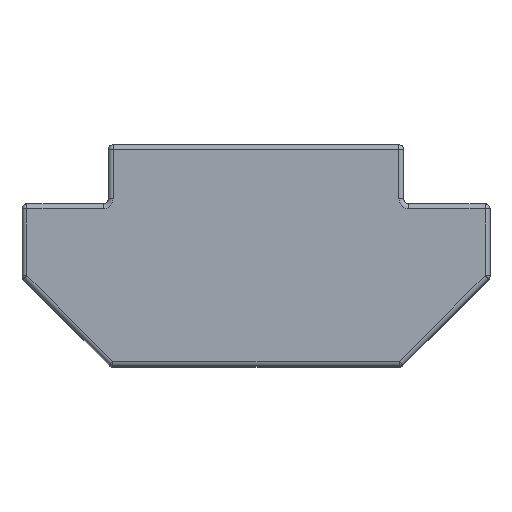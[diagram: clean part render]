
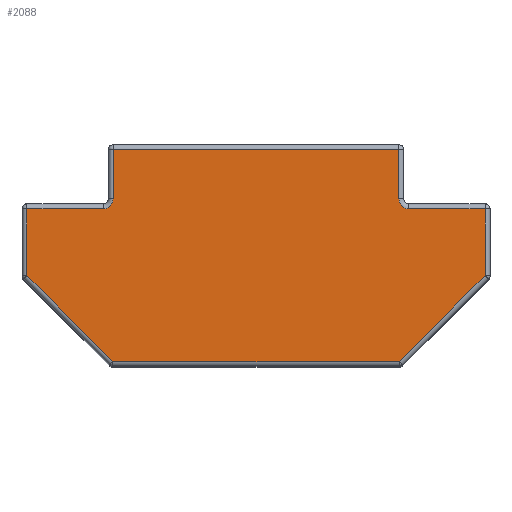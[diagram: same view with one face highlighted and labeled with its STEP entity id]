
A CAD part, top view. The second image highlights one B-rep face of the part: STEP entity #2088.
In plain terms, the highlighted planar face has unit normal (0, 0, 1).
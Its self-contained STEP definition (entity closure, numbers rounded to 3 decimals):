
#29 = CARTESIAN_POINT ( 'NONE',  ( 2.9, 0., 4.75 ) ) ;
#47 = LINE ( 'NONE', #3357, #1229 ) ;
#69 = EDGE_CURVE ( 'NONE', #1045, #1991, #2893, .T. ) ;
#104 = PLANE ( 'NONE',  #776 ) ;
#148 = LINE ( 'NONE', #451, #847 ) ;
#162 = LINE ( 'NONE', #3463, #3146 ) ;
#170 = CARTESIAN_POINT ( 'NONE',  ( -2.9, 0., 4.75 ) ) ;
#232 = LINE ( 'NONE', #29, #3312 ) ;
#248 = EDGE_CURVE ( 'NONE', #1744, #2445, #3550, .T. ) ;
#287 = EDGE_LOOP ( 'NONE', ( #2370, #2886, #1256, #2881, #1720, #688, #2707, #3220, #1725, #3346, #3256, #291 ) ) ;
#291 = ORIENTED_EDGE ( 'NONE', *, *, #923, .T. ) ;
#296 = DIRECTION ( 'NONE',  ( 0., 0., 1. ) ) ;
#326 = CARTESIAN_POINT ( 'NONE',  ( 2.9, 1.15, 4.75 ) ) ;
#408 = VERTEX_POINT ( 'NONE', #2135 ) ;
#444 = VERTEX_POINT ( 'NONE', #548 ) ;
#451 = CARTESIAN_POINT ( 'NONE',  ( 0., 0.95, 4.75 ) ) ;
#528 = CARTESIAN_POINT ( 'NONE',  ( 4.65, 0., 4.75 ) ) ;
#548 = CARTESIAN_POINT ( 'NONE',  ( -2.909, -2.15, 4.75 ) ) ;
#590 = EDGE_CURVE ( 'NONE', #2445, #1393, #2544, .T. ) ;
#594 = DIRECTION ( 'NONE',  ( -1., 0., 0. ) ) ;
#662 = EDGE_CURVE ( 'NONE', #408, #444, #1701, .T. ) ;
#688 = ORIENTED_EDGE ( 'NONE', *, *, #662, .T. ) ;
#707 = CARTESIAN_POINT ( 'NONE',  ( -4.65, 0.95, 4.75 ) ) ;
#776 = AXIS2_PLACEMENT_3D ( 'NONE', #3121, #3408, #2512 ) ;
#803 = EDGE_CURVE ( 'NONE', #1767, #1744, #3417, .T. ) ;
#811 = DIRECTION ( 'NONE',  ( 0., 1., 0. ) ) ;
#847 = VECTOR ( 'NONE', #1798, 1000. ) ;
#917 = DIRECTION ( 'NONE',  ( 0.707, -0.707, 0. ) ) ;
#923 = EDGE_CURVE ( 'NONE', #1690, #3272, #232, .T. ) ;
#1045 = VERTEX_POINT ( 'NONE', #1865 ) ;
#1092 = CARTESIAN_POINT ( 'NONE',  ( 3.1, 1.15, 4.75 ) ) ;
#1148 = CARTESIAN_POINT ( 'NONE',  ( -3.1, 1.15, 4.75 ) ) ;
#1162 = CIRCLE ( 'NONE', #2780, 0.2 ) ;
#1216 = VECTOR ( 'NONE', #1815, 1000. ) ;
#1229 = VECTOR ( 'NONE', #1710, 1000. ) ;
#1255 = CARTESIAN_POINT ( 'NONE',  ( 2.529, -2.529, 4.75 ) ) ;
#1256 = ORIENTED_EDGE ( 'NONE', *, *, #1678, .F. ) ;
#1259 = CARTESIAN_POINT ( 'NONE',  ( 0., -2.15, 4.75 ) ) ;
#1274 = DIRECTION ( 'NONE',  ( 1., 0., 0. ) ) ;
#1326 = EDGE_CURVE ( 'NONE', #1690, #1393, #2718, .T. ) ;
#1330 = CARTESIAN_POINT ( 'NONE',  ( 3.1, 0.95, 4.75 ) ) ;
#1393 = VERTEX_POINT ( 'NONE', #1330 ) ;
#1678 = EDGE_CURVE ( 'NONE', #2413, #1991, #1162, .T. ) ;
#1683 = CARTESIAN_POINT ( 'NONE',  ( 4.65, -0.409, 4.75 ) ) ;
#1690 = VERTEX_POINT ( 'NONE', #326 ) ;
#1701 = LINE ( 'NONE', #1749, #3432 ) ;
#1710 = DIRECTION ( 'NONE',  ( -1., 0., 0. ) ) ;
#1720 = ORIENTED_EDGE ( 'NONE', *, *, #2964, .T. ) ;
#1725 = ORIENTED_EDGE ( 'NONE', *, *, #248, .T. ) ;
#1744 = VERTEX_POINT ( 'NONE', #1683 ) ;
#1749 = CARTESIAN_POINT ( 'NONE',  ( -2.529, -2.529, 4.75 ) ) ;
#1767 = VERTEX_POINT ( 'NONE', #2918 ) ;
#1797 = VERTEX_POINT ( 'NONE', #707 ) ;
#1798 = DIRECTION ( 'NONE',  ( -1., 0., 0. ) ) ;
#1815 = DIRECTION ( 'NONE',  ( 0.707, 0.707, 0. ) ) ;
#1822 = DIRECTION ( 'NONE',  ( 0., -1., 0. ) ) ;
#1865 = CARTESIAN_POINT ( 'NONE',  ( -2.9, 2.15, 4.75 ) ) ;
#1908 = DIRECTION ( 'NONE',  ( -1., 0., 0. ) ) ;
#1991 = VERTEX_POINT ( 'NONE', #3248 ) ;
#2076 = DIRECTION ( 'NONE',  ( 0., -1., 0. ) ) ;
#2088 = ADVANCED_FACE ( 'NONE', ( #2286 ), #104, .F. ) ;
#2112 = CARTESIAN_POINT ( 'NONE',  ( 2.9, 2.15, 4.75 ) ) ;
#2113 = EDGE_CURVE ( 'NONE', #3272, #1045, #47, .T. ) ;
#2135 = CARTESIAN_POINT ( 'NONE',  ( -4.65, -0.409, 4.75 ) ) ;
#2286 = FACE_OUTER_BOUND ( 'NONE', #287, .T. ) ;
#2370 = ORIENTED_EDGE ( 'NONE', *, *, #2113, .T. ) ;
#2413 = VERTEX_POINT ( 'NONE', #2582 ) ;
#2445 = VERTEX_POINT ( 'NONE', #3292 ) ;
#2474 = VECTOR ( 'NONE', #811, 1000. ) ;
#2478 = DIRECTION ( 'NONE',  ( 0., 1., 0. ) ) ;
#2512 = DIRECTION ( 'NONE',  ( -1., 0., 0. ) ) ;
#2544 = LINE ( 'NONE', #3097, #3480 ) ;
#2582 = CARTESIAN_POINT ( 'NONE',  ( -3.1, 0.95, 4.75 ) ) ;
#2591 = AXIS2_PLACEMENT_3D ( 'NONE', #1092, #296, #1908 ) ;
#2707 = ORIENTED_EDGE ( 'NONE', *, *, #3267, .T. ) ;
#2718 = CIRCLE ( 'NONE', #2591, 0.2 ) ;
#2780 = AXIS2_PLACEMENT_3D ( 'NONE', #1148, #3326, #594 ) ;
#2872 = EDGE_CURVE ( 'NONE', #2413, #1797, #148, .T. ) ;
#2881 = ORIENTED_EDGE ( 'NONE', *, *, #2872, .T. ) ;
#2886 = ORIENTED_EDGE ( 'NONE', *, *, #69, .T. ) ;
#2890 = LINE ( 'NONE', #1259, #3091 ) ;
#2893 = LINE ( 'NONE', #170, #2950 ) ;
#2918 = CARTESIAN_POINT ( 'NONE',  ( 2.909, -2.15, 4.75 ) ) ;
#2950 = VECTOR ( 'NONE', #1822, 1000. ) ;
#2964 = EDGE_CURVE ( 'NONE', #1797, #408, #162, .T. ) ;
#3091 = VECTOR ( 'NONE', #1274, 1000. ) ;
#3097 = CARTESIAN_POINT ( 'NONE',  ( 0., 0.95, 4.75 ) ) ;
#3121 = CARTESIAN_POINT ( 'NONE',  ( 0., 0., 4.75 ) ) ;
#3146 = VECTOR ( 'NONE', #2076, 1000. ) ;
#3220 = ORIENTED_EDGE ( 'NONE', *, *, #803, .T. ) ;
#3248 = CARTESIAN_POINT ( 'NONE',  ( -2.9, 1.15, 4.75 ) ) ;
#3256 = ORIENTED_EDGE ( 'NONE', *, *, #1326, .F. ) ;
#3267 = EDGE_CURVE ( 'NONE', #444, #1767, #2890, .T. ) ;
#3272 = VERTEX_POINT ( 'NONE', #2112 ) ;
#3292 = CARTESIAN_POINT ( 'NONE',  ( 4.65, 0.95, 4.75 ) ) ;
#3312 = VECTOR ( 'NONE', #2478, 1000. ) ;
#3326 = DIRECTION ( 'NONE',  ( 0., 0., 1. ) ) ;
#3332 = DIRECTION ( 'NONE',  ( -1., 0., 0. ) ) ;
#3346 = ORIENTED_EDGE ( 'NONE', *, *, #590, .T. ) ;
#3357 = CARTESIAN_POINT ( 'NONE',  ( 0., 2.15, 4.75 ) ) ;
#3408 = DIRECTION ( 'NONE',  ( 0., 0., -1. ) ) ;
#3417 = LINE ( 'NONE', #1255, #1216 ) ;
#3432 = VECTOR ( 'NONE', #917, 1000. ) ;
#3463 = CARTESIAN_POINT ( 'NONE',  ( -4.65, 0., 4.75 ) ) ;
#3480 = VECTOR ( 'NONE', #3332, 1000. ) ;
#3550 = LINE ( 'NONE', #528, #2474 ) ;
